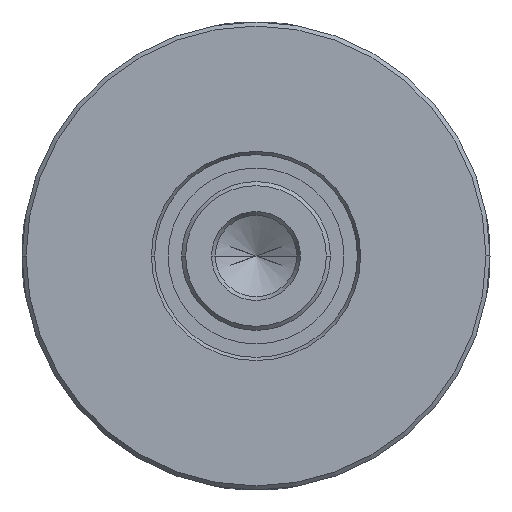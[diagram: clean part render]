
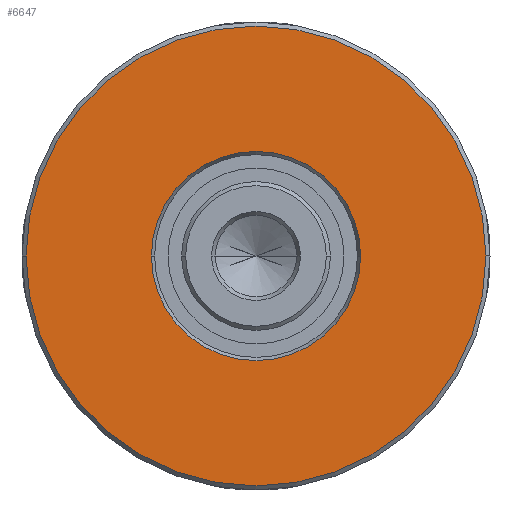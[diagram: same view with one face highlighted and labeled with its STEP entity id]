
A CAD part, left-side view. The second image highlights one B-rep face of the part: STEP entity #6647.
In plain terms, the highlighted planar face has unit normal (-1, 0, 0).
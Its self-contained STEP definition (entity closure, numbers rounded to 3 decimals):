
#6300=CARTESIAN_POINT('',(-2.,0.,
0.));
#6301=DIRECTION('',(1.,0.,0.));
#6302=DIRECTION('',(0.,-1.,0.));
#6303=AXIS2_PLACEMENT_3D('',#6300,#6301,#6302);
#6308=CARTESIAN_POINT('',(-2.,0.,
0.));
#6309=DIRECTION('',(1.,0.,0.));
#6310=DIRECTION('',(0.,1.,0.));
#6311=AXIS2_PLACEMENT_3D('',#6308,#6309,#6310);
#6316=CARTESIAN_POINT('',(-2.,0.,0.));
#6317=DIRECTION('',(1.,0.,0.));
#6318=DIRECTION('',(0.,1.,0.));
#6319=AXIS2_PLACEMENT_3D('',#6316,#6317,#6318);
#6338=CARTESIAN_POINT('',(-2.,0.,0.));
#6339=DIRECTION('',(-1.,0.,0.));
#6340=DIRECTION('',(0.,1.,0.));
#6341=AXIS2_PLACEMENT_3D('',#6338,#6339,#6340);
#6462=CARTESIAN_POINT('',(-2.,7.731,0.));
#6463=VERTEX_POINT('',#6462);
#6464=CARTESIAN_POINT('',(-2.,-7.731,0.));
#6465=VERTEX_POINT('',#6464);
#6466=CARTESIAN_POINT('',(-2.,-17.,0.));
#6467=CARTESIAN_POINT('',(-2.,17.,0.));
#6468=VERTEX_POINT('',#6466);
#6469=VERTEX_POINT('',#6467);
#6632=CARTESIAN_POINT('',(-2.,0.,0.));
#6633=DIRECTION('',(1.,0.,0.));
#6634=DIRECTION('',(0.,-1.,0.));
#6635=AXIS2_PLACEMENT_3D('',#6632,#6633,#6634);
#6636=PLANE('',#6635);
#6637=ORIENTED_EDGE('',*,*,#6612,.T.);
#6638=ORIENTED_EDGE('',*,*,#6626,.T.);
#6639=EDGE_LOOP('',(#6637,#6638));
#6640=FACE_OUTER_BOUND('',#6639,.F.);
#6642=ORIENTED_EDGE('',*,*,#6641,.F.);
#6644=ORIENTED_EDGE('',*,*,#6643,.T.);
#6645=EDGE_LOOP('',(#6642,#6644));
#6646=FACE_BOUND('',#6645,.F.);
#6304=CIRCLE('',#6303,17.);
#6312=CIRCLE('',#6311,17.);
#6320=CIRCLE('',#6319,7.731);
#6342=CIRCLE('',#6341,7.731);
#6612=EDGE_CURVE('',#6468,#6469,#6304,.T.);
#6626=EDGE_CURVE('',#6469,#6468,#6312,.T.);
#6641=EDGE_CURVE('',#6463,#6465,#6320,.T.);
#6643=EDGE_CURVE('',#6463,#6465,#6342,.T.);
#6647=ADVANCED_FACE('',(#6640,#6646),#6636,.F.);
